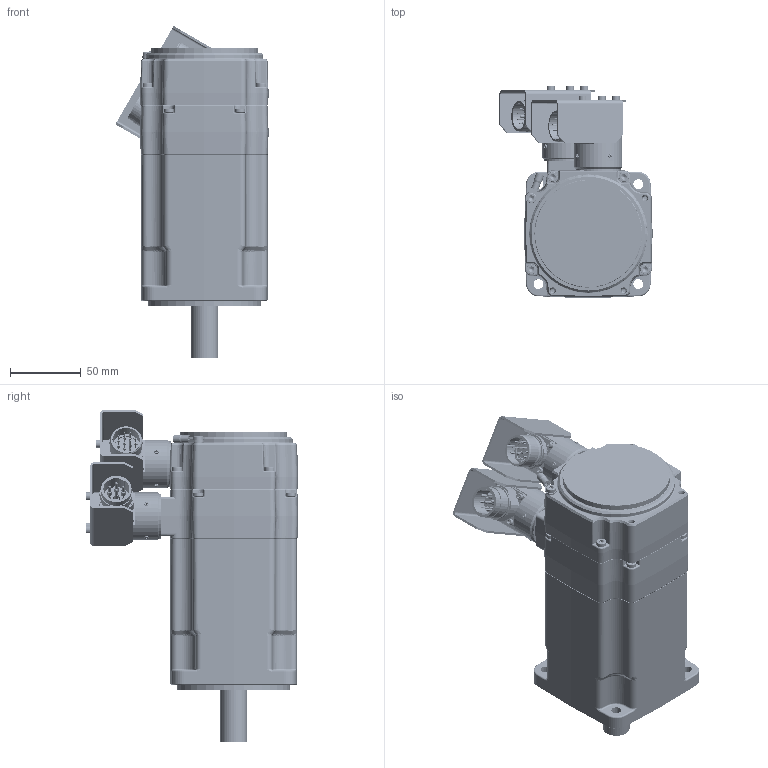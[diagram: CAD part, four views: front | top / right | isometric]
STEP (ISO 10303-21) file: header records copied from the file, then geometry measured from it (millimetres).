
FILE_DESCRIPTION((''),'2;1');
FILE_NAME('EY420EAR7010_ASM','2016-10-19T',('pf73167'),(''),'PRO/ENGINEER BY PARAMETRIC TECHNOLOGY CORPORATION, 2009400','PRO/ENGINEER BY PARAMETRIC TECHNOLOGY CORPORATION, 2009400','');
FILE_SCHEMA(('CONFIG_CONTROL_DESIGN'));
Length unit declared in the file: millimetre
Products named in the file (51): 344176P0027; 5116P1308; 1613P0123; 344174P0001; 344171P0001; 344212P0002; 344171P0001_ASM; 344175R0001_ASM; 5116P1315; 1711P0005; 1645P0017; 344170P0001; 344225R2000; 344561P0001; 344570P0002_ENROULE; 344228R2000_ASM; 344172P0009; 344173R2008_ASM; 5340P0069; 5320P0033; 1143P0415; 1613P0034; 1613P0035; 282280P0012; 220005P1002; 344509P0001; 1643P0104; 1143P0405; 344180P0018; 1143P0410; 1642P0104; 6620P0012; 1143P0408; 345359P0002; 5340P0124; 5340P0125; 1150P0204; 345359P0001; 1170P0042; 220132P1010_0001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
Assembly tree (127 placements, depth 4):
  EY420EAR7010_ASM
    344176P0027
    5116P1308
    1613P0123
    344175R0001_ASM
      344174P0001
      344171P0001_ASM
        344171P0001  x10
        344212P0002  x2
    5116P1315
    1711P0005
    1645P0017  x2
    344173R2008_ASM
      344228R2000_ASM
        344170P0001
        344225R2000  x6
        344561P0001  x2
        344570P0002_ENROULE  x2
      344172P0009
    5340P0069  x2
    5320P0033
    1143P0415  x4
    1613P0034
    1613P0035
    282280P0012
    220005P1002
    344509P0001
    1643P0104  x3
    1143P0405  x3
    344180P0018
    1143P0410  x4
    1642P0104
    6620P0012
    1143P0408
    345359R1010_ASM
      345359P0002
      5340P0124
      5340P0125
      1150P0204  x8
      345359P0001
      1170P0042  x4
      220132P1010_ASM
        220132P1010_0001
        220132P1010_0002
        220132P0111  x4
        220132P0120  x3
      345359P0003
      1150P0305  x3
    345359R1020_ASM
      345359P0002
      5340P0124
      5340P0125
      1150P0204  x8
      345359P0001
      1170P0042  x4
      220132P1020
      220132P0112  x12
      345359P0003
      1150P0305  x3
Bounding box: 108.48 x 150.2 x 235.04 mm (x, y, z)
Volume: 1013706.3 mm3; surface area: 405470.3 mm2
Topology: 125 solids, 126 shells, 6068 faces, 14311 edges, 8687 vertices
Faces by surface type: plane 2159, cylinder 1791, cone 918, bspline 743, torus 409, sphere 28, extrusion 20
Entity records: 140297 total; most frequent: CARTESIAN_POINT 48600, ORIENTED_EDGE 19204, DIRECTION 18367, EDGE_CURVE 9602, AXIS2_PLACEMENT_3D 6696, VERTEX_POINT 5996, VECTOR 4975, LINE 4973
